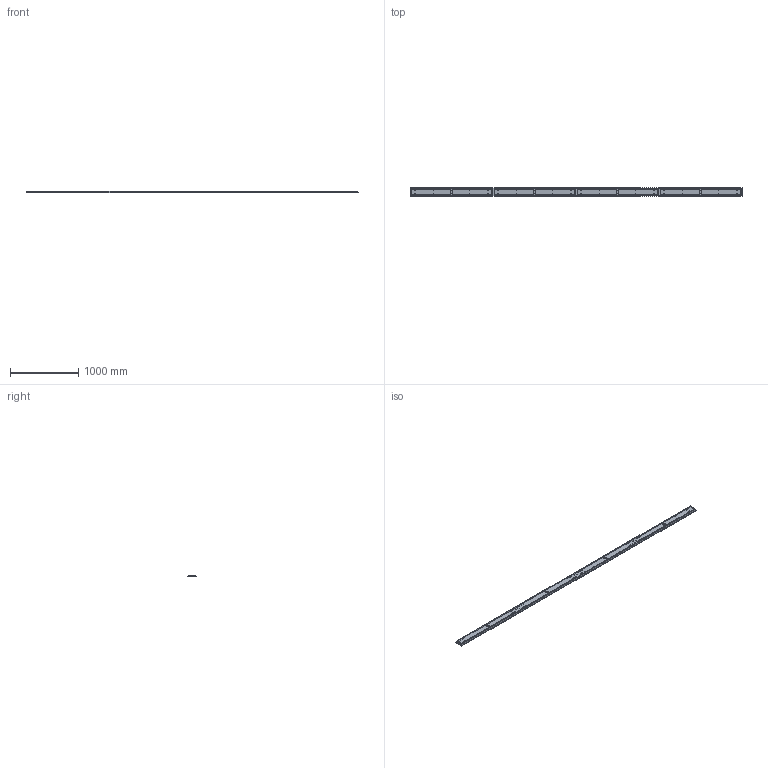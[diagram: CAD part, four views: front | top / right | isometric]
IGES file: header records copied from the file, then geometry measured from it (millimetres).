
Global section: file name: /Users/danielszollosi/Documents/SkLO/DEVELOPMENT/LIGHT 2024/MULTIPENDANT CANOPIES/Linear Multipendant Canopies/SkLO_Linear_Canopy_16'_MCL16/3D/SkLO_Linear_Canopy_16'_MCL016_3D.igs; native system: Rhinoceros ( Sep 24 2023 ); preprocessor: Trout Lake IGES 012 Sep 24 2023; date: 241018.202657; units: millimetre
Bounding box: 4880 x 127 x 28.3 mm (x, y, z)
Surface area: 2580670.3 mm2 (no closed solid volume)
Topology: 0 solids, 0 shells, 726 faces, 4392 edges, 4056 vertices
Faces by surface type: bspline 726
